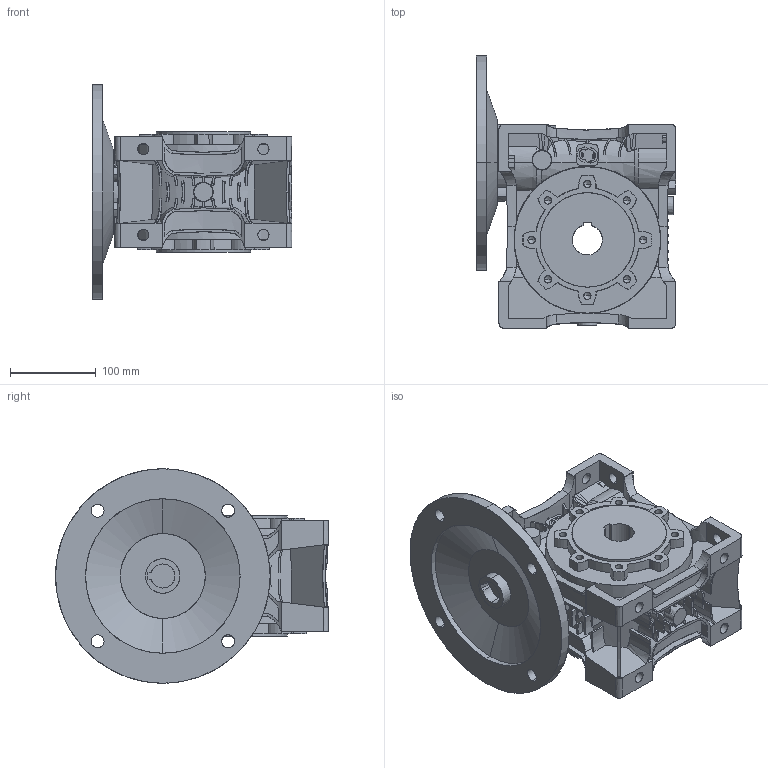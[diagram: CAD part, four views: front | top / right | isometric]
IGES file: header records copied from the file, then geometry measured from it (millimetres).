
Start section: SolidWorks IGES file using analytic representation for surfaces
Global section: file name: E:\Final Worm GBX For Motive\Worm GBX 3D\BOX090\BOX90PAM100B5.igs; native system: SolidWorks 2012; preprocessor: SolidWorks 2012; author: Tahir Momin; date: 130906.101929; units: millimetre
Bounding box: 232.5 x 318 x 250 mm (x, y, z)
Surface area: 497897 mm2 (no closed solid volume)
Topology: 0 solids, 0 shells, 1476 faces, 12069 edges, 12034 vertices
Faces by surface type: revolution 785, bspline 691
